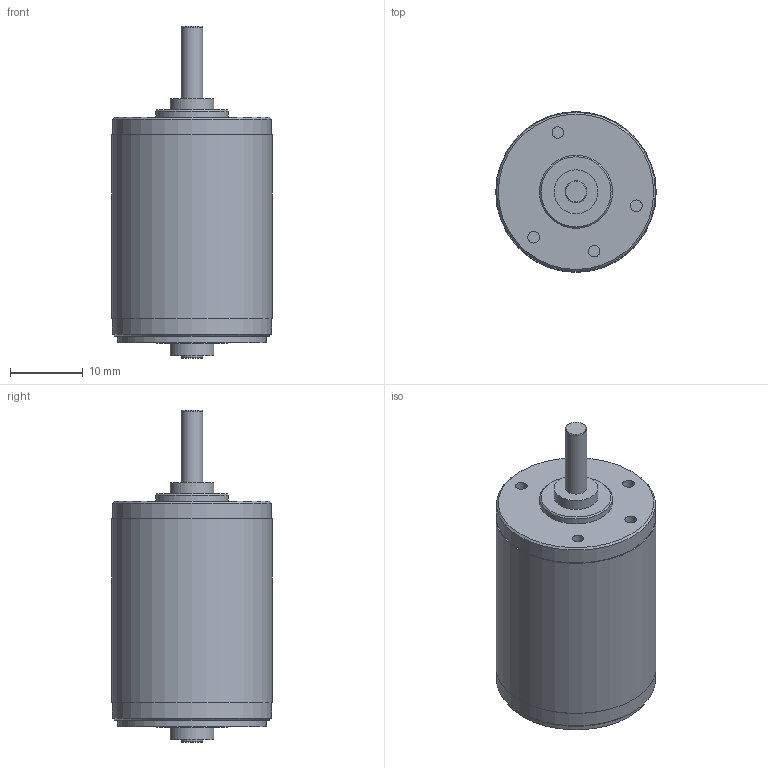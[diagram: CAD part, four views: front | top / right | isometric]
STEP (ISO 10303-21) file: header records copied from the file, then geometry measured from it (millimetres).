
FILE_DESCRIPTION(/* description */ (''),/* implementation_level */ '2;1');
FILE_NAME(/* name */ 'AM2224R3_30.stp',/* time_stamp */ '2018-11-28T08:13:47+01:00',/* author */ ('DR. FRITZ FAULHABER GmbH & Co. KG'),/* organization */ ('DR. FRITZ FAULHABER GmbH & Co. KG'),/* preprocessor_version */ 'ST-DEVELOPER v16.7',/* originating_system */ 'SIEMENS PLM Software NX 12.0',/* authorisation */ '');
FILE_SCHEMA (('AUTOMOTIVE_DESIGN { 1 0 10303 214 3 1 1 1 }'));
Length unit declared in the file: millimetre
Products named in the file (1): Alle_Motoren
Bounding box: 22 x 22 x 45.5 mm (x, y, z)
Volume: 11882.7 mm3; surface area: 3170 mm2
Topology: 1 solids, 1 shells, 114 faces, 242 edges, 160 vertices
Faces by surface type: plane 82, cylinder 19, extrusion 7, cone 6
Full cylindrical faces by diameter (mm): 1.6 x4, 2 x4, 3 x2, 6 x2, 10 x2, 10.2 x1, 20.4 x1, 21.8 x2, 22 x1
Entity records: 3369 total; most frequent: CARTESIAN_POINT 905, ORIENTED_EDGE 430, DIRECTION 400, EDGE_CURVE 215, EDGE_LOOP 169, VERTEX_POINT 158, AXIS2_PLACEMENT_3D 152, ADVANCED_FACE 114
